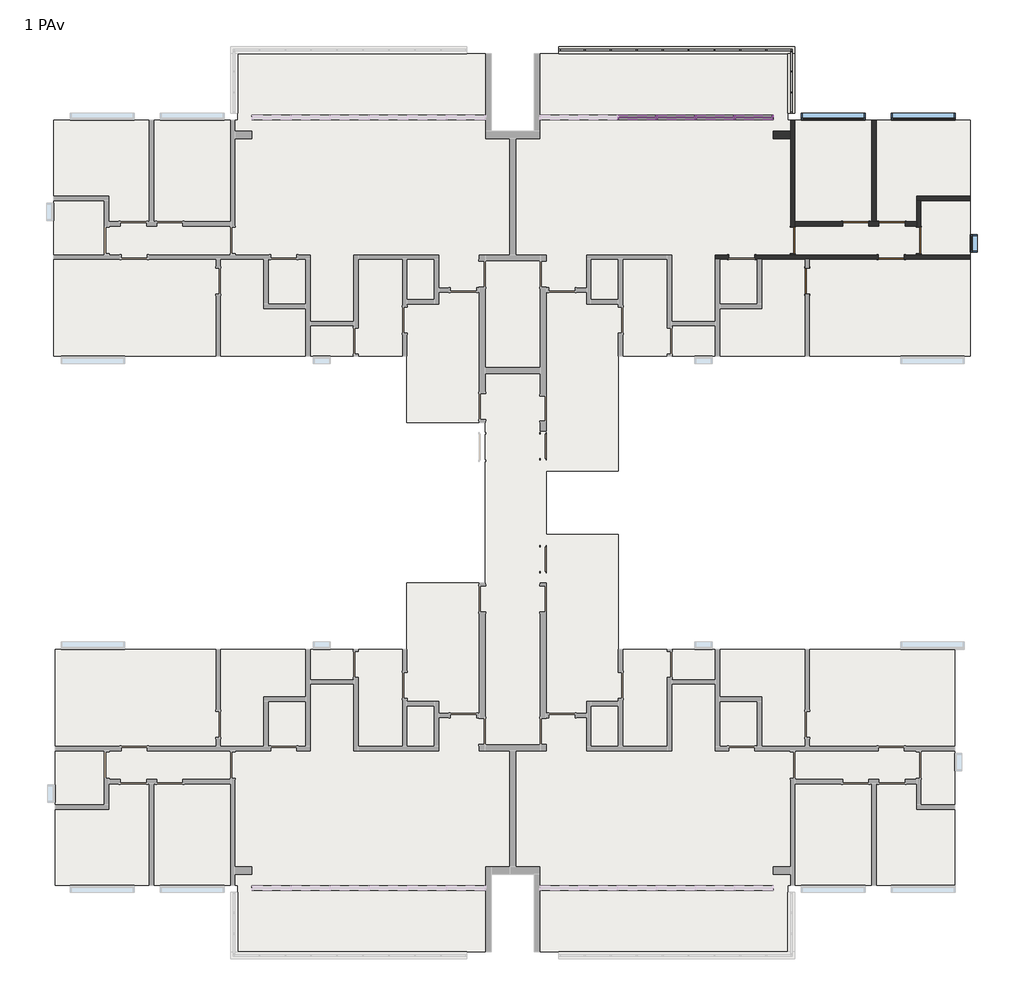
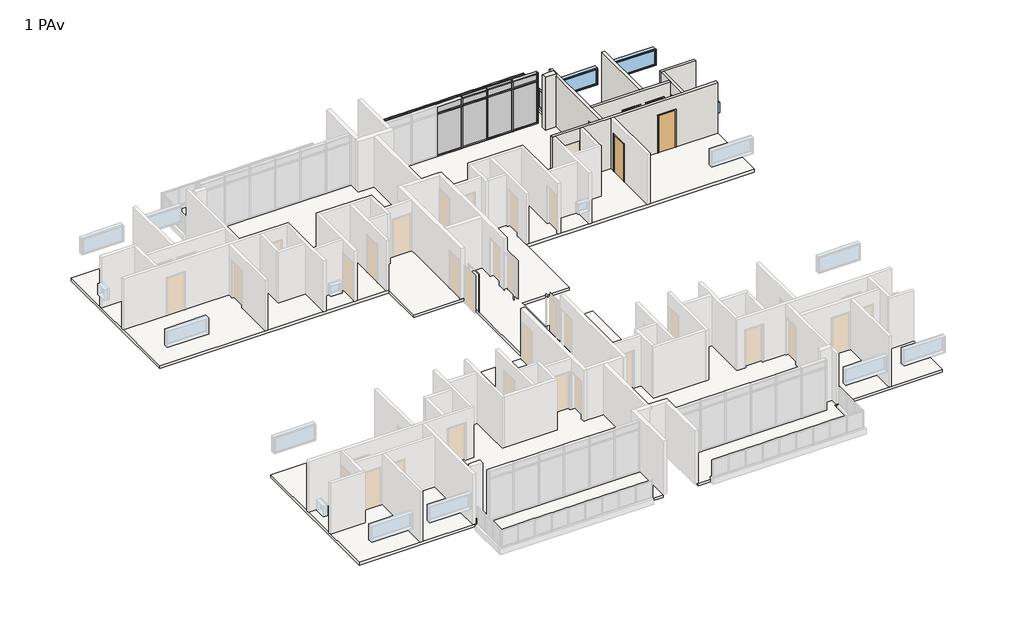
# One storey, part 6 of 6: 57 members, 20 plates, 9 walls, 6 doors, 3 windows, 1 slab.
"""IFC4 building model written with IfcOpenShell, lengths in millimetres."""

from ifc_helpers import new_model, si_unit, frame, origin, place, context, project, spatial, polyline, outline, extrude, faceted_brep, transform, mapped, element, save
from components import door_90_x_210_ee935524, door_90_x_210_565370b3, montante_retangular_50_mm_quadrado_84e40a56, montante_retangular_50_mm_quadrado_3d152aff, montante_retangular_50_mm_quadrado_a01005a4, montante_retangular_50_mm_quadrado_ddd80bd7, montante_retangular_50_mm_quadrado_4acded50, montante_retangular_50_mm_quadrado_237d7072, montante_retangular_50_x_150_mm_6217edde, montante_retangular_50_x_150_mm_a22249d7, montante_retangular_50_x_150_mm_6225e4e3, montante_retangular_50_x_150_mm_0a8c3443, montante_retangular_50_x_150_mm_567eccab, montante_retangular_50_x_150_mm_1ca2bba2, montante_retangular_50_x_150_mm_6abf4531, montante_retangular_50_x_150_mm_662c37b1, painel_do_sistema_0196877a, painel_do_sistema_2aa81470, painel_do_sistema_57ceaf50, painel_do_sistema_ab0ed719, painel_do_sistema_1ecb5f42, painel_do_sistema_49db1829, painel_do_sistema_5ea5287b, painel_do_sistema_7730abee, window_0610_x_0610_mm_b5667cc9, window_220_x_90_cea65aae

model = new_model("IFC4")

# Units and contexts
model_context = context("Model", 3, world=origin())
ifc_project = project(units=[si_unit("LENGTHUNIT", "METRE", prefix="MILLI")], contexts=[model_context])

# Site, building, storey
site = spatial("IfcSite", under=ifc_project)
building = spatial("IfcBuilding", under=site)
storey = spatial("IfcBuildingStorey", under=building, Name="1 PAv", Elevation=3000.0)

# Doors
placement = place(None, origin())
door_90_x_210_shape = door_90_x_210_ee935524(model_context)
element("IfcDoor", 1, ObjectType="M_Descarga simples : 90 x 210", at=placement, inside=storey, context=model_context, shape_type="MappedRepresentation", body=[
    mapped(door_90_x_210_shape, transform((9138.7734258, 8433.6614625, 3000.0), x_axis=(0.0, 1.0, 0.0), y_axis=(-1.0, 0.0, 0.0), z_axis=(0.0, 0.0, 1.0))),
])
element("IfcDoor", 2, ObjectType="M_Descarga simples : 90 x 210", at=placement, inside=storey, context=model_context, shape_type="MappedRepresentation", body=[
    mapped(door_90_x_210_shape, transform((8638.7734258, 9833.6614625, 3000.0), x_axis=(0.0, -1.0, 0.0), y_axis=(1.0, 0.0, 0.0), z_axis=(0.0, 0.0, 1.0))),
])
element("IfcDoor", 3, ObjectType="M_Descarga simples : 90 x 210", at=placement, inside=storey, context=model_context, shape_type="MappedRepresentation", body=[
    mapped(door_90_x_210_shape, transform((12988.7734258, 9833.6614625, 3000.0), x_axis=(0.0, -1.0, 0.0), y_axis=(1.0, 0.0, 0.0), z_axis=(0.0, 0.0, 1.0))),
])
element("IfcDoor", 4, ObjectType="M_Descarga simples : 90 x 210", at=placement, inside=storey, context=model_context, shape_type="MappedRepresentation", body=[
    mapped(door_90_x_210_shape, transform((10813.7734258, 10408.6614625, 3000.0), x_axis=(1.0, 0.0, 0.0), y_axis=(0.0, 1.0, 0.0), z_axis=(0.0, 0.0, 1.0))),
])
door_90_x_210_2_shape = door_90_x_210_565370b3(model_context)
element("IfcDoor", 5, ObjectType="M_Descarga simples : 90 x 210", at=placement, inside=storey, context=model_context, shape_type="MappedRepresentation", body=[
    mapped(door_90_x_210_2_shape, transform((12063.7734258, 10408.6614625, 3000.0), x_axis=(-1.0, 0.0, 0.0), y_axis=(0.0, -1.0, 0.0), z_axis=(0.0, 0.0, 1.0))),
])
element("IfcDoor", 6, ObjectType="M_Descarga simples : 90 x 210", at=placement, inside=storey, context=model_context, shape_type="MappedRepresentation", body=[
    mapped(door_90_x_210_2_shape, transform((12043.7734258, 9258.6614625, 3000.0), x_axis=(1.0, 0.0, 0.0), y_axis=(0.0, 1.0, 0.0), z_axis=(0.0, 0.0, 1.0))),
])

# Members
montante_retangular_50_mm_quadrado_shape = montante_retangular_50_mm_quadrado_84e40a56(model_context)
element("IfcMember", 7, ObjectType="Montante retangular : 50 mm Quadrado", at=placement, inside=storey, context=model_context, shape_type="MappedRepresentation", body=[
    mapped(montante_retangular_50_mm_quadrado_shape, transform((1453.7734258, 16403.6614625, 3150.0), x_axis=(1.0, 0.0, 0.0), y_axis=(0.0, -1.0, 0.0), z_axis=(0.0, 0.0, -1.0))),
])
element("IfcMember", 8, ObjectType="Montante retangular : 50 mm Quadrado", at=placement, inside=storey, context=model_context, shape_type="MappedRepresentation", body=[
    mapped(montante_retangular_50_mm_quadrado_shape, transform((2348.7734258, 16403.6614625, 3150.0), x_axis=(1.0, 0.0, 0.0), y_axis=(0.0, -1.0, 0.0), z_axis=(0.0, 0.0, -1.0))),
])
element("IfcMember", 9, ObjectType="Montante retangular : 50 mm Quadrado", at=placement, inside=storey, context=model_context, shape_type="MappedRepresentation", body=[
    mapped(montante_retangular_50_mm_quadrado_shape, transform((3243.7734258, 16403.6614625, 3150.0), x_axis=(1.0, 0.0, 0.0), y_axis=(0.0, -1.0, 0.0), z_axis=(0.0, 0.0, -1.0))),
])
element("IfcMember", 10, ObjectType="Montante retangular : 50 mm Quadrado", at=placement, inside=storey, context=model_context, shape_type="MappedRepresentation", body=[
    mapped(montante_retangular_50_mm_quadrado_shape, transform((4138.7734258, 16403.6614625, 3150.0), x_axis=(1.0, 0.0, 0.0), y_axis=(0.0, -1.0, 0.0), z_axis=(0.0, 0.0, -1.0))),
])
element("IfcMember", 11, ObjectType="Montante retangular : 50 mm Quadrado", at=placement, inside=storey, context=model_context, shape_type="MappedRepresentation", body=[
    mapped(montante_retangular_50_mm_quadrado_shape, transform((5033.7734258, 16403.6614625, 3150.0), x_axis=(1.0, 0.0, 0.0), y_axis=(0.0, -1.0, 0.0), z_axis=(0.0, 0.0, -1.0))),
])
element("IfcMember", 12, ObjectType="Montante retangular : 50 mm Quadrado", at=placement, inside=storey, context=model_context, shape_type="MappedRepresentation", body=[
    mapped(montante_retangular_50_mm_quadrado_shape, transform((5928.7734258, 16403.6614625, 3150.0), x_axis=(1.0, 0.0, 0.0), y_axis=(0.0, -1.0, 0.0), z_axis=(0.0, 0.0, -1.0))),
])
element("IfcMember", 13, ObjectType="Montante retangular : 50 mm Quadrado", at=placement, inside=storey, context=model_context, shape_type="MappedRepresentation", body=[
    mapped(montante_retangular_50_mm_quadrado_shape, transform((6823.7734258, 16403.6614625, 3150.0), x_axis=(1.0, 0.0, 0.0), y_axis=(0.0, -1.0, 0.0), z_axis=(0.0, 0.0, -1.0))),
])
element("IfcMember", 14, ObjectType="Montante retangular : 50 mm Quadrado", at=placement, inside=storey, context=model_context, shape_type="MappedRepresentation", body=[
    mapped(montante_retangular_50_mm_quadrado_shape, transform((7718.7734258, 16403.6614625, 3150.0), x_axis=(1.0, 0.0, 0.0), y_axis=(0.0, -1.0, 0.0), z_axis=(0.0, 0.0, -1.0))),
])
element("IfcMember", 15, ObjectType="Montante retangular : 50 mm Quadrado", at=placement, inside=storey, context=model_context, shape_type="MappedRepresentation", body=[
    mapped(montante_retangular_50_mm_quadrado_shape, transform((8588.7734258, 15663.6614625, 3150.0), x_axis=(0.0, -1.0, 0.0), y_axis=(-1.0, 0.0, 0.0), z_axis=(0.0, 0.0, -1.0))),
])
element("IfcMember", 16, ObjectType="Montante retangular : 50 mm Quadrado", at=placement, inside=storey, context=model_context, shape_type="MappedRepresentation", body=[
    mapped(montante_retangular_50_mm_quadrado_shape, transform((8588.7734258, 14948.6614625, 3150.0), x_axis=(0.0, -1.0, 0.0), y_axis=(-1.0, 0.0, 0.0), z_axis=(0.0, 0.0, -1.0))),
])
montante_retangular_50_mm_quadrado_2_shape = montante_retangular_50_mm_quadrado_3d152aff(model_context)
element("IfcMember", 17, ObjectType="Montante retangular : 50 mm Quadrado", at=placement, inside=storey, context=model_context, shape_type="MappedRepresentation", body=[
    mapped(montante_retangular_50_mm_quadrado_2_shape, transform((8613.7734258, 16403.6614625, 3150.0), x_axis=(1.0, 0.0, 0.0), y_axis=(0.0, -1.0, 0.0), z_axis=(0.0, 0.0, -1.0))),
])
element("IfcMember", 18, ObjectType="Montante retangular : 50 mm Quadrado", at=placement, inside=storey, context=model_context, shape_type="MappedRepresentation", body=[
    mapped(montante_retangular_50_mm_quadrado_2_shape, transform((8588.7734258, 14233.6614625, 3150.0), x_axis=(0.0, -1.0, 0.0), y_axis=(-1.0, 0.0, 0.0), z_axis=(0.0, 0.0, -1.0))),
])
element("IfcMember", 19, ObjectType="Montante retangular : 50 mm Quadrado", at=placement, inside=storey, context=model_context, shape_type="MappedRepresentation", body=[
    mapped(montante_retangular_50_mm_quadrado_2_shape, transform((558.7734258, 16403.6614625, 4150.0), x_axis=(-1.0, 0.0, 0.0), y_axis=(0.0, -1.0, 0.0), z_axis=(0.0, 0.0, 1.0))),
])
element("IfcMember", 20, ObjectType="Montante retangular : 50 mm Quadrado", at=placement, inside=storey, context=model_context, shape_type="MappedRepresentation", body=[
    mapped(montante_retangular_50_mm_quadrado_2_shape, transform((8588.7734258, 16378.6614625, 4150.0), x_axis=(0.0, 1.0, 0.0), y_axis=(-1.0, 0.0, 0.0), z_axis=(0.0, 0.0, 1.0))),
])
montante_retangular_50_mm_quadrado_3_shape = montante_retangular_50_mm_quadrado_a01005a4(model_context)
element("IfcMember", 21, ObjectType="Montante retangular : 50 mm Quadrado", at=placement, inside=storey, context=model_context, shape_type="MappedRepresentation", body=[
    mapped(montante_retangular_50_mm_quadrado_3_shape, transform((8588.7734258, 14283.6614625, 4150.0), x_axis=(0.0, 0.0, 1.0), y_axis=(-1.0, 0.0, 0.0), z_axis=(0.0, -1.0, 0.0))),
])
element("IfcMember", 22, ObjectType="Montante retangular : 50 mm Quadrado", at=placement, inside=storey, context=model_context, shape_type="MappedRepresentation", body=[
    mapped(montante_retangular_50_mm_quadrado_3_shape, transform((8588.7734258, 15688.6614625, 4150.0), x_axis=(0.0, 0.0, 1.0), y_axis=(-1.0, 0.0, 0.0), z_axis=(0.0, -1.0, 0.0))),
])
montante_retangular_50_mm_quadrado_4_shape = montante_retangular_50_mm_quadrado_ddd80bd7(model_context)
element("IfcMember", 23, ObjectType="Montante retangular : 50 mm Quadrado", at=placement, inside=storey, context=model_context, shape_type="MappedRepresentation", body=[
    mapped(montante_retangular_50_mm_quadrado_4_shape, transform((8588.7734258, 14973.6614625, 4150.0), x_axis=(0.0, 0.0, 1.0), y_axis=(-1.0, 0.0, 0.0), z_axis=(0.0, -1.0, 0.0))),
])
element("IfcMember", 24, ObjectType="Montante retangular : 50 mm Quadrado", at=placement, inside=storey, context=model_context, shape_type="MappedRepresentation", body=[
    mapped(montante_retangular_50_mm_quadrado_3_shape, transform((8588.7734258, 16328.6614625, 3150.0), x_axis=(0.0, 0.0, -1.0), y_axis=(-1.0, 0.0, 0.0), z_axis=(0.0, 1.0, 0.0))),
])
element("IfcMember", 25, ObjectType="Montante retangular : 50 mm Quadrado", at=placement, inside=storey, context=model_context, shape_type="MappedRepresentation", body=[
    mapped(montante_retangular_50_mm_quadrado_3_shape, transform((8588.7734258, 14923.6614625, 3150.0), x_axis=(0.0, 0.0, -1.0), y_axis=(-1.0, 0.0, 0.0), z_axis=(0.0, 1.0, 0.0))),
])
element("IfcMember", 26, ObjectType="Montante retangular : 50 mm Quadrado", at=placement, inside=storey, context=model_context, shape_type="MappedRepresentation", body=[
    mapped(montante_retangular_50_mm_quadrado_4_shape, transform((8588.7734258, 15638.6614625, 3150.0), x_axis=(0.0, 0.0, -1.0), y_axis=(-1.0, 0.0, 0.0), z_axis=(0.0, 1.0, 0.0))),
])
montante_retangular_50_mm_quadrado_5_shape = montante_retangular_50_mm_quadrado_4acded50(model_context)
element("IfcMember", 27, ObjectType="Montante retangular : 50 mm Quadrado", at=placement, inside=storey, context=model_context, shape_type="MappedRepresentation", body=[
    mapped(montante_retangular_50_mm_quadrado_5_shape, transform((8563.7734258, 16403.6614625, 4150.0), x_axis=(0.0, 0.0, 1.0), y_axis=(0.0, -1.0, 0.0), z_axis=(1.0, 0.0, 0.0))),
])
element("IfcMember", 28, ObjectType="Montante retangular : 50 mm Quadrado", at=placement, inside=storey, context=model_context, shape_type="MappedRepresentation", body=[
    mapped(montante_retangular_50_mm_quadrado_5_shape, transform((1428.7734258, 16403.6614625, 4150.0), x_axis=(0.0, 0.0, 1.0), y_axis=(0.0, -1.0, 0.0), z_axis=(1.0, 0.0, 0.0))),
])
montante_retangular_50_mm_quadrado_6_shape = montante_retangular_50_mm_quadrado_237d7072(model_context)
element("IfcMember", 29, ObjectType="Montante retangular : 50 mm Quadrado", at=placement, inside=storey, context=model_context, shape_type="MappedRepresentation", body=[
    mapped(montante_retangular_50_mm_quadrado_6_shape, transform((2323.7734258, 16403.6614625, 4150.0), x_axis=(0.0, 0.0, 1.0), y_axis=(0.0, -1.0, 0.0), z_axis=(1.0, 0.0, 0.0))),
])
element("IfcMember", 30, ObjectType="Montante retangular : 50 mm Quadrado", at=placement, inside=storey, context=model_context, shape_type="MappedRepresentation", body=[
    mapped(montante_retangular_50_mm_quadrado_6_shape, transform((3218.7734258, 16403.6614625, 4150.0), x_axis=(0.0, 0.0, 1.0), y_axis=(0.0, -1.0, 0.0), z_axis=(1.0, 0.0, 0.0))),
])
element("IfcMember", 31, ObjectType="Montante retangular : 50 mm Quadrado", at=placement, inside=storey, context=model_context, shape_type="MappedRepresentation", body=[
    mapped(montante_retangular_50_mm_quadrado_6_shape, transform((4113.7734258, 16403.6614625, 4150.0), x_axis=(0.0, 0.0, 1.0), y_axis=(0.0, -1.0, 0.0), z_axis=(1.0, 0.0, 0.0))),
])
element("IfcMember", 32, ObjectType="Montante retangular : 50 mm Quadrado", at=placement, inside=storey, context=model_context, shape_type="MappedRepresentation", body=[
    mapped(montante_retangular_50_mm_quadrado_6_shape, transform((5008.7734258, 16403.6614625, 4150.0), x_axis=(0.0, 0.0, 1.0), y_axis=(0.0, -1.0, 0.0), z_axis=(1.0, 0.0, 0.0))),
])
element("IfcMember", 33, ObjectType="Montante retangular : 50 mm Quadrado", at=placement, inside=storey, context=model_context, shape_type="MappedRepresentation", body=[
    mapped(montante_retangular_50_mm_quadrado_6_shape, transform((5903.7734258, 16403.6614625, 4150.0), x_axis=(0.0, 0.0, 1.0), y_axis=(0.0, -1.0, 0.0), z_axis=(1.0, 0.0, 0.0))),
])
element("IfcMember", 34, ObjectType="Montante retangular : 50 mm Quadrado", at=placement, inside=storey, context=model_context, shape_type="MappedRepresentation", body=[
    mapped(montante_retangular_50_mm_quadrado_6_shape, transform((6798.7734258, 16403.6614625, 4150.0), x_axis=(0.0, 0.0, 1.0), y_axis=(0.0, -1.0, 0.0), z_axis=(1.0, 0.0, 0.0))),
])
element("IfcMember", 35, ObjectType="Montante retangular : 50 mm Quadrado", at=placement, inside=storey, context=model_context, shape_type="MappedRepresentation", body=[
    mapped(montante_retangular_50_mm_quadrado_6_shape, transform((7693.7734258, 16403.6614625, 4150.0), x_axis=(0.0, 0.0, 1.0), y_axis=(0.0, -1.0, 0.0), z_axis=(1.0, 0.0, 0.0))),
])
element("IfcMember", 36, ObjectType="Montante retangular : 50 mm Quadrado", at=placement, inside=storey, context=model_context, shape_type="MappedRepresentation", body=[
    mapped(montante_retangular_50_mm_quadrado_5_shape, transform((608.7734258, 16403.6614625, 3150.0), x_axis=(0.0, 0.0, -1.0), y_axis=(0.0, -1.0, 0.0), z_axis=(-1.0, 0.0, 0.0))),
])
element("IfcMember", 37, ObjectType="Montante retangular : 50 mm Quadrado", at=placement, inside=storey, context=model_context, shape_type="MappedRepresentation", body=[
    mapped(montante_retangular_50_mm_quadrado_5_shape, transform((7743.7734258, 16403.6614625, 3150.0), x_axis=(0.0, 0.0, -1.0), y_axis=(0.0, -1.0, 0.0), z_axis=(-1.0, 0.0, 0.0))),
])
element("IfcMember", 38, ObjectType="Montante retangular : 50 mm Quadrado", at=placement, inside=storey, context=model_context, shape_type="MappedRepresentation", body=[
    mapped(montante_retangular_50_mm_quadrado_6_shape, transform((1478.7734258, 16403.6614625, 3150.0), x_axis=(0.0, 0.0, -1.0), y_axis=(0.0, -1.0, 0.0), z_axis=(-1.0, 0.0, 0.0))),
])
element("IfcMember", 39, ObjectType="Montante retangular : 50 mm Quadrado", at=placement, inside=storey, context=model_context, shape_type="MappedRepresentation", body=[
    mapped(montante_retangular_50_mm_quadrado_6_shape, transform((2373.7734258, 16403.6614625, 3150.0), x_axis=(0.0, 0.0, -1.0), y_axis=(0.0, -1.0, 0.0), z_axis=(-1.0, 0.0, 0.0))),
])
element("IfcMember", 40, ObjectType="Montante retangular : 50 mm Quadrado", at=placement, inside=storey, context=model_context, shape_type="MappedRepresentation", body=[
    mapped(montante_retangular_50_mm_quadrado_6_shape, transform((3268.7734258, 16403.6614625, 3150.0), x_axis=(0.0, 0.0, -1.0), y_axis=(0.0, -1.0, 0.0), z_axis=(-1.0, 0.0, 0.0))),
])
element("IfcMember", 41, ObjectType="Montante retangular : 50 mm Quadrado", at=placement, inside=storey, context=model_context, shape_type="MappedRepresentation", body=[
    mapped(montante_retangular_50_mm_quadrado_6_shape, transform((4163.7734258, 16403.6614625, 3150.0), x_axis=(0.0, 0.0, -1.0), y_axis=(0.0, -1.0, 0.0), z_axis=(-1.0, 0.0, 0.0))),
])
element("IfcMember", 42, ObjectType="Montante retangular : 50 mm Quadrado", at=placement, inside=storey, context=model_context, shape_type="MappedRepresentation", body=[
    mapped(montante_retangular_50_mm_quadrado_6_shape, transform((5058.7734258, 16403.6614625, 3150.0), x_axis=(0.0, 0.0, -1.0), y_axis=(0.0, -1.0, 0.0), z_axis=(-1.0, 0.0, 0.0))),
])
element("IfcMember", 43, ObjectType="Montante retangular : 50 mm Quadrado", at=placement, inside=storey, context=model_context, shape_type="MappedRepresentation", body=[
    mapped(montante_retangular_50_mm_quadrado_6_shape, transform((5953.7734258, 16403.6614625, 3150.0), x_axis=(0.0, 0.0, -1.0), y_axis=(0.0, -1.0, 0.0), z_axis=(-1.0, 0.0, 0.0))),
])
element("IfcMember", 44, ObjectType="Montante retangular : 50 mm Quadrado", at=placement, inside=storey, context=model_context, shape_type="MappedRepresentation", body=[
    mapped(montante_retangular_50_mm_quadrado_6_shape, transform((6848.7734258, 16403.6614625, 3150.0), x_axis=(0.0, 0.0, -1.0), y_axis=(0.0, -1.0, 0.0), z_axis=(-1.0, 0.0, 0.0))),
])
montante_retangular_50_x_150_mm_shape = montante_retangular_50_x_150_mm_6217edde(model_context)
element("IfcMember", 45, ObjectType="Montante retangular : 50 x 150 mm", at=placement, inside=storey, context=model_context, shape_type="MappedRepresentation", body=[
    mapped(montante_retangular_50_x_150_mm_shape, transform((6654.6067592, 14083.6614625, 5850.0), x_axis=(0.0, 0.0, 1.0), y_axis=(0.0, 1.0, 0.0), z_axis=(-1.0, 0.0, 0.0))),
])
montante_retangular_50_x_150_mm_2_shape = montante_retangular_50_x_150_mm_a22249d7(model_context)
element("IfcMember", 46, ObjectType="Montante retangular : 50 x 150 mm", at=placement, inside=storey, context=model_context, shape_type="MappedRepresentation", body=[
    mapped(montante_retangular_50_x_150_mm_2_shape, transform((5310.4400925, 14083.6614625, 5850.0), x_axis=(0.0, 0.0, 1.0), y_axis=(0.0, 1.0, 0.0), z_axis=(-1.0, 0.0, 0.0))),
])
element("IfcMember", 47, ObjectType="Montante retangular : 50 x 150 mm", at=placement, inside=storey, context=model_context, shape_type="MappedRepresentation", body=[
    mapped(montante_retangular_50_x_150_mm_2_shape, transform((3966.2734258, 14083.6614625, 5850.0), x_axis=(0.0, 0.0, 1.0), y_axis=(0.0, 1.0, 0.0), z_axis=(-1.0, 0.0, 0.0))),
])
element("IfcMember", 48, ObjectType="Montante retangular : 50 x 150 mm", at=placement, inside=storey, context=model_context, shape_type="MappedRepresentation", body=[
    mapped(montante_retangular_50_x_150_mm_shape, transform((7923.7734258, 14083.6614625, 3000.0), x_axis=(0.0, 0.0, -1.0), y_axis=(0.0, 1.0, 0.0), z_axis=(1.0, 0.0, 0.0))),
])
element("IfcMember", 49, ObjectType="Montante retangular : 50 x 150 mm", at=placement, inside=storey, context=model_context, shape_type="MappedRepresentation", body=[
    mapped(montante_retangular_50_x_150_mm_2_shape, transform((6604.6067592, 14083.6614625, 3000.0), x_axis=(0.0, 0.0, -1.0), y_axis=(0.0, 1.0, 0.0), z_axis=(1.0, 0.0, 0.0))),
])
element("IfcMember", 50, ObjectType="Montante retangular : 50 x 150 mm", at=placement, inside=storey, context=model_context, shape_type="MappedRepresentation", body=[
    mapped(montante_retangular_50_x_150_mm_2_shape, transform((5260.4400925, 14083.6614625, 3000.0), x_axis=(0.0, 0.0, -1.0), y_axis=(0.0, 1.0, 0.0), z_axis=(1.0, 0.0, 0.0))),
])
element("IfcMember", 51, ObjectType="Montante retangular : 50 x 150 mm", at=placement, inside=storey, context=model_context, shape_type="MappedRepresentation", body=[
    mapped(montante_retangular_50_x_150_mm_2_shape, transform((3916.2734258, 14083.6614625, 3000.0), x_axis=(0.0, 0.0, -1.0), y_axis=(0.0, 1.0, 0.0), z_axis=(1.0, 0.0, 0.0))),
])
montante_retangular_50_x_150_mm_3_shape = montante_retangular_50_x_150_mm_6225e4e3(model_context)
element("IfcMember", 52, ObjectType="Montante retangular : 50 x 150 mm", at=placement, inside=storey, context=model_context, shape_type="MappedRepresentation", body=[
    mapped(montante_retangular_50_x_150_mm_3_shape, transform((6629.6067592, 14083.6614625, 3000.0), x_axis=(-1.0, 0.0, 0.0), y_axis=(0.0, 1.0, 0.0), z_axis=(0.0, 0.0, -1.0))),
])
element("IfcMember", 53, ObjectType="Montante retangular : 50 x 150 mm", at=placement, inside=storey, context=model_context, shape_type="MappedRepresentation", body=[
    mapped(montante_retangular_50_x_150_mm_3_shape, transform((5285.4400925, 14083.6614625, 3000.0), x_axis=(-1.0, 0.0, 0.0), y_axis=(0.0, 1.0, 0.0), z_axis=(0.0, 0.0, -1.0))),
])
element("IfcMember", 54, ObjectType="Montante retangular : 50 x 150 mm", at=placement, inside=storey, context=model_context, shape_type="MappedRepresentation", body=[
    mapped(montante_retangular_50_x_150_mm_3_shape, transform((3941.2734258, 14083.6614625, 3000.0), x_axis=(-1.0, 0.0, 0.0), y_axis=(0.0, 1.0, 0.0), z_axis=(0.0, 0.0, -1.0))),
])
montante_retangular_50_x_150_mm_4_shape = montante_retangular_50_x_150_mm_0a8c3443(model_context)
element("IfcMember", 55, ObjectType="Montante retangular : 50 x 150 mm", at=placement, inside=storey, context=model_context, shape_type="MappedRepresentation", body=[
    mapped(montante_retangular_50_x_150_mm_4_shape, transform((7973.7734258, 14083.6614625, 5850.0), x_axis=(1.0, 0.0, 0.0), y_axis=(0.0, 1.0, 0.0), z_axis=(0.0, 0.0, 1.0))),
])
montante_retangular_50_x_150_mm_5_shape = montante_retangular_50_x_150_mm_567eccab(model_context)
element("IfcMember", 56, ObjectType="Montante retangular : 50 x 150 mm", at=placement, inside=storey, context=model_context, shape_type="MappedRepresentation", body=[
    mapped(montante_retangular_50_x_150_mm_5_shape, transform((6629.6067592, 14083.6614625, 5400.0), x_axis=(-1.0, 0.0, 0.0), y_axis=(0.0, 1.0, 0.0), z_axis=(0.0, 0.0, -1.0))),
])
element("IfcMember", 57, ObjectType="Montante retangular : 50 x 150 mm", at=placement, inside=storey, context=model_context, shape_type="MappedRepresentation", body=[
    mapped(montante_retangular_50_x_150_mm_5_shape, transform((5285.4400925, 14083.6614625, 5400.0), x_axis=(-1.0, 0.0, 0.0), y_axis=(0.0, 1.0, 0.0), z_axis=(0.0, 0.0, -1.0))),
])
element("IfcMember", 58, ObjectType="Montante retangular : 50 x 150 mm", at=placement, inside=storey, context=model_context, shape_type="MappedRepresentation", body=[
    mapped(montante_retangular_50_x_150_mm_5_shape, transform((3941.2734258, 14083.6614625, 5400.0), x_axis=(-1.0, 0.0, 0.0), y_axis=(0.0, 1.0, 0.0), z_axis=(0.0, 0.0, -1.0))),
])
montante_retangular_50_x_150_mm_6_shape = montante_retangular_50_x_150_mm_1ca2bba2(model_context)
element("IfcMember", 59, ObjectType="Montante retangular : 50 x 150 mm", at=placement, inside=storey, context=model_context, shape_type="MappedRepresentation", body=[
    mapped(montante_retangular_50_x_150_mm_6_shape, transform((6654.6067592, 14083.6614625, 5400.0), x_axis=(0.0, 0.0, 1.0), y_axis=(0.0, 1.0, 0.0), z_axis=(-1.0, 0.0, 0.0))),
])
montante_retangular_50_x_150_mm_7_shape = montante_retangular_50_x_150_mm_6abf4531(model_context)
element("IfcMember", 60, ObjectType="Montante retangular : 50 x 150 mm", at=placement, inside=storey, context=model_context, shape_type="MappedRepresentation", body=[
    mapped(montante_retangular_50_x_150_mm_7_shape, transform((5310.4400925, 14083.6614625, 5400.0), x_axis=(0.0, 0.0, 1.0), y_axis=(0.0, 1.0, 0.0), z_axis=(-1.0, 0.0, 0.0))),
])
element("IfcMember", 61, ObjectType="Montante retangular : 50 x 150 mm", at=placement, inside=storey, context=model_context, shape_type="MappedRepresentation", body=[
    mapped(montante_retangular_50_x_150_mm_7_shape, transform((3966.2734258, 14083.6614625, 5400.0), x_axis=(0.0, 0.0, 1.0), y_axis=(0.0, 1.0, 0.0), z_axis=(-1.0, 0.0, 0.0))),
])
element("IfcMember", 62, ObjectType="Montante retangular : 50 x 150 mm", at=placement, inside=storey, context=model_context, shape_type="MappedRepresentation", body=[
    mapped(montante_retangular_50_x_150_mm_7_shape, transform((2622.1067592, 14083.6614625, 5400.0), x_axis=(0.0, 0.0, 1.0), y_axis=(0.0, 1.0, 0.0), z_axis=(-1.0, 0.0, 0.0))),
])
montante_retangular_50_x_150_mm_8_shape = montante_retangular_50_x_150_mm_662c37b1(model_context)
element("IfcMember", 63, ObjectType="Montante retangular : 50 x 150 mm", at=placement, inside=storey, context=model_context, shape_type="MappedRepresentation", body=[
    mapped(montante_retangular_50_x_150_mm_8_shape, transform((7973.7734258, 14083.6614625, 5400.0), x_axis=(1.0, 0.0, 0.0), y_axis=(0.0, 1.0, 0.0), z_axis=(0.0, 0.0, 1.0))),
])

# Plates
painel_do_sistema_shape = painel_do_sistema_0196877a(model_context)
element("IfcPlate", 64, ObjectType="Painel do sistema : Envidraçado", at=placement, inside=storey, context=model_context, shape_type="MappedRepresentation", body=[
    mapped(painel_do_sistema_shape, transform((8588.7734258, 16008.6614625, 3200.0), x_axis=(0.0, -1.0, 0.0), y_axis=(1.0, 0.0, 0.0), z_axis=(0.0, 0.0, 1.0))),
])
element("IfcPlate", 65, ObjectType="Painel do sistema : Envidraçado", at=placement, inside=storey, context=model_context, shape_type="MappedRepresentation", body=[
    mapped(painel_do_sistema_shape, transform((8588.7734258, 14603.6614625, 3200.0), x_axis=(0.0, -1.0, 0.0), y_axis=(1.0, 0.0, 0.0), z_axis=(0.0, 0.0, 1.0))),
])
painel_do_sistema_2_shape = painel_do_sistema_2aa81470(model_context)
element("IfcPlate", 66, ObjectType="Painel do sistema : Envidraçado", at=placement, inside=storey, context=model_context, shape_type="MappedRepresentation", body=[
    mapped(painel_do_sistema_2_shape, transform((8588.7734258, 15306.1614625, 3200.0), x_axis=(0.0, -1.0, 0.0), y_axis=(1.0, 0.0, 0.0), z_axis=(0.0, 0.0, 1.0))),
])
painel_do_sistema_3_shape = painel_do_sistema_57ceaf50(model_context)
element("IfcPlate", 67, ObjectType="Painel do sistema : Envidraçado", at=placement, inside=storey, context=model_context, shape_type="MappedRepresentation", body=[
    mapped(painel_do_sistema_3_shape, transform((1018.7734258, 16403.6614625, 3200.0), x_axis=(1.0, 0.0, 0.0), y_axis=(0.0, 1.0, 0.0), z_axis=(0.0, 0.0, 1.0))),
])
element("IfcPlate", 68, ObjectType="Painel do sistema : Envidraçado", at=placement, inside=storey, context=model_context, shape_type="MappedRepresentation", body=[
    mapped(painel_do_sistema_3_shape, transform((8153.7734258, 16403.6614625, 3200.0), x_axis=(1.0, 0.0, 0.0), y_axis=(0.0, 1.0, 0.0), z_axis=(0.0, 0.0, 1.0))),
])
painel_do_sistema_4_shape = painel_do_sistema_ab0ed719(model_context)
element("IfcPlate", 69, ObjectType="Painel do sistema : Envidraçado", at=placement, inside=storey, context=model_context, shape_type="MappedRepresentation", body=[
    mapped(painel_do_sistema_4_shape, transform((1901.2734258, 16403.6614625, 3200.0), x_axis=(1.0, 0.0, 0.0), y_axis=(0.0, 1.0, 0.0), z_axis=(0.0, 0.0, 1.0))),
])
element("IfcPlate", 70, ObjectType="Painel do sistema : Envidraçado", at=placement, inside=storey, context=model_context, shape_type="MappedRepresentation", body=[
    mapped(painel_do_sistema_4_shape, transform((2796.2734258, 16403.6614625, 3200.0), x_axis=(1.0, 0.0, 0.0), y_axis=(0.0, 1.0, 0.0), z_axis=(0.0, 0.0, 1.0))),
])
element("IfcPlate", 71, ObjectType="Painel do sistema : Envidraçado", at=placement, inside=storey, context=model_context, shape_type="MappedRepresentation", body=[
    mapped(painel_do_sistema_4_shape, transform((3691.2734258, 16403.6614625, 3200.0), x_axis=(1.0, 0.0, 0.0), y_axis=(0.0, 1.0, 0.0), z_axis=(0.0, 0.0, 1.0))),
])
element("IfcPlate", 72, ObjectType="Painel do sistema : Envidraçado", at=placement, inside=storey, context=model_context, shape_type="MappedRepresentation", body=[
    mapped(painel_do_sistema_4_shape, transform((4586.2734258, 16403.6614625, 3200.0), x_axis=(1.0, 0.0, 0.0), y_axis=(0.0, 1.0, 0.0), z_axis=(0.0, 0.0, 1.0))),
])
element("IfcPlate", 73, ObjectType="Painel do sistema : Envidraçado", at=placement, inside=storey, context=model_context, shape_type="MappedRepresentation", body=[
    mapped(painel_do_sistema_4_shape, transform((5481.2734258, 16403.6614625, 3200.0), x_axis=(1.0, 0.0, 0.0), y_axis=(0.0, 1.0, 0.0), z_axis=(0.0, 0.0, 1.0))),
])
element("IfcPlate", 74, ObjectType="Painel do sistema : Envidraçado", at=placement, inside=storey, context=model_context, shape_type="MappedRepresentation", body=[
    mapped(painel_do_sistema_4_shape, transform((6376.2734258, 16403.6614625, 3200.0), x_axis=(1.0, 0.0, 0.0), y_axis=(0.0, 1.0, 0.0), z_axis=(0.0, 0.0, 1.0))),
])
element("IfcPlate", 75, ObjectType="Painel do sistema : Envidraçado", at=placement, inside=storey, context=model_context, shape_type="MappedRepresentation", body=[
    mapped(painel_do_sistema_4_shape, transform((7271.2734258, 16403.6614625, 3200.0), x_axis=(1.0, 0.0, 0.0), y_axis=(0.0, 1.0, 0.0), z_axis=(0.0, 0.0, 1.0))),
])
painel_do_sistema_5_shape = painel_do_sistema_1ecb5f42(model_context)
element("IfcPlate", 76, ObjectType="Painel do sistema : Envidraçado", at=placement, inside=storey, context=model_context, shape_type="MappedRepresentation", body=[
    mapped(painel_do_sistema_5_shape, transform((7289.1900925, 14083.6614625, 3050.0), x_axis=(-1.0, 0.0, 0.0), y_axis=(0.0, -1.0, 0.0), z_axis=(0.0, 0.0, 1.0))),
])
painel_do_sistema_6_shape = painel_do_sistema_49db1829(model_context)
element("IfcPlate", 77, ObjectType="Painel do sistema : Envidraçado", at=placement, inside=storey, context=model_context, shape_type="MappedRepresentation", body=[
    mapped(painel_do_sistema_6_shape, transform((5957.5234258, 14083.6614625, 3050.0), x_axis=(-1.0, 0.0, 0.0), y_axis=(0.0, -1.0, 0.0), z_axis=(0.0, 0.0, 1.0))),
])
element("IfcPlate", 78, ObjectType="Painel do sistema : Envidraçado", at=placement, inside=storey, context=model_context, shape_type="MappedRepresentation", body=[
    mapped(painel_do_sistema_6_shape, transform((4613.3567592, 14083.6614625, 3050.0), x_axis=(-1.0, 0.0, 0.0), y_axis=(0.0, -1.0, 0.0), z_axis=(0.0, 0.0, 1.0))),
])
element("IfcPlate", 79, ObjectType="Painel do sistema : Envidraçado", at=placement, inside=storey, context=model_context, shape_type="MappedRepresentation", body=[
    mapped(painel_do_sistema_6_shape, transform((3269.1900925, 14083.6614625, 3050.0), x_axis=(-1.0, 0.0, 0.0), y_axis=(0.0, -1.0, 0.0), z_axis=(0.0, 0.0, 1.0))),
])
painel_do_sistema_7_shape = painel_do_sistema_5ea5287b(model_context)
element("IfcPlate", 80, ObjectType="Painel do sistema : Envidraçado", at=placement, inside=storey, context=model_context, shape_type="MappedRepresentation", body=[
    mapped(painel_do_sistema_7_shape, transform((7289.1900925, 14083.6614625, 5425.0), x_axis=(-1.0, 0.0, 0.0), y_axis=(0.0, -1.0, 0.0), z_axis=(0.0, 0.0, 1.0))),
])
painel_do_sistema_8_shape = painel_do_sistema_7730abee(model_context)
element("IfcPlate", 81, ObjectType="Painel do sistema : Envidraçado", at=placement, inside=storey, context=model_context, shape_type="MappedRepresentation", body=[
    mapped(painel_do_sistema_8_shape, transform((5957.5234258, 14083.6614625, 5425.0), x_axis=(-1.0, 0.0, 0.0), y_axis=(0.0, -1.0, 0.0), z_axis=(0.0, 0.0, 1.0))),
])
element("IfcPlate", 82, ObjectType="Painel do sistema : Envidraçado", at=placement, inside=storey, context=model_context, shape_type="MappedRepresentation", body=[
    mapped(painel_do_sistema_8_shape, transform((4613.3567592, 14083.6614625, 5425.0), x_axis=(-1.0, 0.0, 0.0), y_axis=(0.0, -1.0, 0.0), z_axis=(0.0, 0.0, 1.0))),
])
element("IfcPlate", 83, ObjectType="Painel do sistema : Envidraçado", at=placement, inside=storey, context=model_context, shape_type="MappedRepresentation", body=[
    mapped(painel_do_sistema_8_shape, transform((3269.1900925, 14083.6614625, 5425.0), x_axis=(-1.0, 0.0, 0.0), y_axis=(0.0, -1.0, 0.0), z_axis=(0.0, 0.0, 1.0))),
])

# Slab
element("IfcSlab", 84, ObjectType="Genérico 150 mm", at=placement, inside=storey, context=model_context, shape_type="Brep", body=[
    faceted_brep([(-4676.2265742, -4286.3385375, 2850.0), (-4676.2265742, -1996.3385375, 2850.0), (-1976.2265742, -1996.3385375, 2850.0), (-1976.2265742, 3543.6614625, 2850.0), (-4676.2265742, 3543.6614625, 2850.0), (-4676.2265742, 5833.6614625, 2850.0), (-16866.2265742, 5833.6614625, 2850.0), (-16866.2265742, 13983.6614625, 2850.0), (-10516.2265742, 13983.6614625, 2850.0), (-10516.2265742, 14233.6614625, 2850.0), (-10516.2265742, 16278.6614625, 2850.0), (-2611.2265742, 16278.6614625, 2850.0), (-1961.2265742, 16278.6614625, 2850.0), (-1961.2265742, 13353.6614625, 2850.0), (-91.2265742, 13353.6614625, 2850.0), (-91.2265742, 16278.6614625, 2850.0), (558.7734258, 16278.6614625, 2850.0), (8463.7734258, 16278.6614625, 2850.0), (8463.7734258, 14233.6614625, 2850.0), (8463.7734258, 13983.6614625, 2850.0), (14763.7734258, 13983.6614625, 2850.0), (14763.7734258, 5833.6614625, 2850.0), (2623.7734258, 5833.6614625, 2850.0), (2623.7734258, 1863.6614625, 2850.0), (123.7734258, 1863.6614625, 2850.0), (123.7734258, -316.3385375, 2850.0), (2623.7734258, -316.3385375, 2850.0), (2623.7734258, -4286.3385375, 2850.0), (14223.269929, -4286.3385375, 2850.0), (14223.269929, -12436.3385375, 2850.0), (8463.7734258, -12436.3385375, 2850.0), (8463.7734258, -12686.3385375, 2850.0), (8463.7734258, -14731.3385375, 2850.0), (558.7734258, -14731.3385375, 2850.0), (-91.2265742, -14731.3385375, 2850.0), (-91.2265742, -11806.3385375, 2850.0), (-1961.2265742, -11806.3385375, 2850.0), (-1961.2265742, -14731.3385375, 2850.0), (-2611.2265742, -14731.3385375, 2850.0), (-10516.2265742, -14731.3385375, 2850.0), (-10516.2265742, -12686.3385375, 2850.0), (-10516.2265742, -12436.3385375, 2850.0), (-16816.2265742, -12436.3385375, 2850.0), (-16816.2265742, -4286.3385375, 2850.0), (-4676.2265742, -4286.3385375, 3000.0), (-16816.2265742, -4286.3385375, 3000.0), (-16816.2265742, -12436.3385375, 3000.0), (-10516.2265742, -12436.3385375, 3000.0), (-10516.2265742, -12686.3385375, 3000.0), (-10516.2265742, -14731.3385375, 3000.0), (-1961.2265742, -14731.3385375, 3000.0), (-1961.2265742, -11806.3385375, 3000.0), (-91.2265742, -11806.3385375, 3000.0), (-91.2265742, -14731.3385375, 3000.0), (8463.7734258, -14731.3385375, 3000.0), (8463.7734258, -12686.3385375, 3000.0), (8463.7734258, -12436.3385375, 3000.0), (14223.269929, -12436.3385375, 3000.0), (14223.269929, -4286.3385375, 3000.0), (2623.7734258, -4286.3385375, 3000.0), (2623.7734258, -316.3385375, 3000.0), (123.7734258, -316.3385375, 3000.0), (123.7734258, 1863.6614625, 3000.0), (2623.7734258, 1863.6614625, 3000.0), (2623.7734258, 5833.6614625, 3000.0), (14763.7734258, 5833.6614625, 3000.0), (14763.7734258, 13983.6614625, 3000.0), (8463.7734258, 13983.6614625, 3000.0), (8463.7734258, 14233.6614625, 3000.0), (8463.7734258, 16278.6614625, 3000.0), (-91.2265742, 16278.6614625, 3000.0), (-91.2265742, 13353.6614625, 3000.0), (-1961.2265742, 13353.6614625, 3000.0), (-1961.2265742, 16278.6614625, 3000.0), (-10516.2265742, 16278.6614625, 3000.0), (-10516.2265742, 14233.6614625, 3000.0), (-10516.2265742, 13983.6614625, 3000.0), (-16866.2265742, 13983.6614625, 3000.0), (-16866.2265742, 5833.6614625, 3000.0), (-4676.2265742, 5833.6614625, 3000.0), (-4676.2265742, 3543.6614625, 3000.0), (-1976.2265742, 3543.6614625, 3000.0), (-1976.2265742, 3143.6614625, 3000.0), (-1976.2265742, 2243.6614625, 3000.0), (-1976.2265742, -1996.3385375, 3000.0), (-4676.2265742, -1996.3385375, 3000.0)], [[[0, 1, 2, 3, 4, 5, 6, 7, 8, 9, 10, 11, 12, 13, 14, 15, 16, 17, 18, 19, 20, 21, 22, 23, 24, 25, 26, 27, 28, 29, 30, 31, 32, 33, 34, 35, 36, 37, 38, 39, 40, 41, 42, 43]], [[44, 45, 46, 47, 48, 49, 50, 51, 52, 53, 54, 55, 56, 57, 58, 59, 60, 61, 62, 63, 64, 65, 66, 67, 68, 69, 70, 71, 72, 73, 74, 75, 76, 77, 78, 79, 80, 81, 82, 83, 84, 85]], [[1, 0, 44, 85]], [[2, 1, 85, 84]], [[3, 2, 84, 83, 82, 81]], [[4, 3, 81, 80]], [[5, 4, 80, 79]], [[6, 5, 79, 78]], [[7, 6, 78, 77]], [[8, 7, 77, 76]], [[10, 9, 8, 76, 75, 74]], [[12, 11, 10, 74, 73]], [[13, 12, 73, 72]], [[14, 13, 72, 71]], [[15, 14, 71, 70]], [[17, 16, 15, 70, 69]], [[19, 18, 17, 69, 68, 67]], [[20, 19, 67, 66]], [[21, 20, 66, 65]], [[22, 21, 65, 64]], [[23, 22, 64, 63]], [[27, 26, 60, 59]], [[28, 27, 59, 58]], [[29, 28, 58, 57]], [[30, 29, 57, 56]], [[32, 31, 30, 56, 55, 54]], [[34, 33, 32, 54, 53]], [[35, 34, 53, 52]], [[36, 35, 52, 51]], [[37, 36, 51, 50]], [[39, 38, 37, 50, 49]], [[41, 40, 39, 49, 48, 47]], [[42, 41, 47, 46]], [[43, 42, 46, 45]], [[0, 43, 45, 44]], [[24, 23, 63, 62]], [[25, 24, 62, 61]], [[26, 25, 61, 60]]]),
])

# Walls
element("IfcWall", 85, ObjectType="Exeterna 25", at=placement, inside=storey, context=model_context, shape_type="Brep", body=[
    faceted_brep([(558.7734258, 16278.6614625, 2850.0), (8463.7734258, 16278.6614625, 2850.0), (8713.7734258, 16278.6614625, 2850.0), (8713.7734258, 16278.6614625, 3150.0), (8463.7734258, 16278.6614625, 3150.0), (558.7734258, 16278.6614625, 3150.0), (558.7734258, 16528.6614625, 2850.0), (558.7734258, 16528.6614625, 3150.0), (8713.7734258, 16528.6614625, 3150.0), (8713.7734258, 16528.6614625, 2850.0)], [[[0, 1, 2, 3, 4, 5]], [[6, 7, 8, 9]], [[2, 1, 0, 6, 9]], [[5, 4, 3, 8, 7]], [[0, 5, 7, 6]], [[3, 2, 9, 8]]]),
])
element("IfcWall", 86, ObjectType="Exeterna 25", at=placement, inside=storey, context=model_context, shape_type="Brep", body=[
    faceted_brep([(8463.7734258, 16278.6614625, 2850.0), (8463.7734258, 14233.6614625, 2850.0), (8463.7734258, 14233.6614625, 3000.0), (8463.7734258, 14233.6614625, 3150.0), (8463.7734258, 16278.6614625, 3150.0), (8463.7734258, 16278.6614625, 3000.0), (8713.7734258, 14233.6614625, 2850.0), (8713.7734258, 16278.6614625, 2850.0), (8713.7734258, 16278.6614625, 3150.0), (8713.7734258, 14233.6614625, 3150.0)], [[[0, 1, 2, 3, 4, 5]], [[6, 7, 8, 9]], [[1, 0, 7, 6]], [[4, 3, 9, 8]], [[4, 8, 7, 0, 5]], [[1, 6, 9, 3, 2]]]),
])
element("IfcWall", 87, ObjectType="Exeterna 25", at=placement, inside=storey, context=model_context, shape_type="Brep", body=[
    faceted_brep([(7973.7734258, 13353.6614625, 3000.0), (8563.7734258, 13353.6614625, 3000.0), (8563.7734258, 13353.6614625, 6000.0), (7973.7734258, 13353.6614625, 6000.0), (7973.7734258, 13603.6614625, 3000.0), (7973.7734258, 13603.6614625, 6000.0), (8223.7734258, 13603.6614625, 6000.0), (8563.7734258, 13603.6614625, 6000.0), (8563.7734258, 13603.6614625, 3000.0), (8223.7734258, 13603.6614625, 3000.0), (7973.7734258, 13478.6614625, 3000.0), (7973.7734258, 13478.6614625, 6000.0)], [[[0, 1, 2, 3]], [[4, 5, 6, 7, 8, 9]], [[1, 0, 10, 4, 9, 8]], [[3, 2, 7, 6, 5, 11]], [[2, 1, 8, 7]], [[0, 3, 11, 5, 4, 10]]]),
])
element("IfcWall", 88, ObjectType="Interna 15", at=placement, inside=storey, context=model_context, shape_type="Brep", body=[
    faceted_brep([(8563.7734258, 9383.6614625, 5100.0), (8563.7734258, 9383.6614625, 3000.0), (8563.7734258, 9333.6614625, 3000.0), (8563.7734258, 9333.6614625, 5850.0), (8563.7734258, 13983.6614625, 5850.0), (8563.7734258, 13983.6614625, 3000.0), (8563.7734258, 13603.6614625, 3000.0), (8563.7734258, 13353.6614625, 3000.0), (8563.7734258, 10283.6614625, 3000.0), (8563.7734258, 10283.6614625, 5100.0), (8713.7734258, 9333.6614625, 3000.0), (8713.7734258, 9383.6614625, 3000.0), (8713.7734258, 9383.6614625, 5100.0), (8713.7734258, 10283.6614625, 5100.0), (8713.7734258, 10283.6614625, 3000.0), (8713.7734258, 10333.6614625, 3000.0), (8713.7734258, 10483.6614625, 3000.0), (8713.7734258, 13983.6614625, 3000.0), (8713.7734258, 13983.6614625, 5850.0), (8713.7734258, 10483.6614625, 5850.0), (8713.7734258, 10333.6614625, 5850.0), (8713.7734258, 9333.6614625, 5850.0)], [[[0, 1, 2, 3, 4, 5, 6, 7, 8, 9]], [[10, 11, 12, 13, 14, 15, 16, 17, 18, 19, 20, 21]], [[2, 1, 11, 10]], [[8, 7, 6, 5, 17, 16, 15, 14]], [[4, 3, 21, 20, 19, 18]], [[3, 2, 10, 21]], [[5, 4, 18, 17]], [[12, 11, 1, 0]], [[13, 12, 0, 9]], [[14, 13, 9, 8]]]),
])
element("IfcWall", 89, ObjectType="Interna 15", at=placement, inside=storey, context=model_context, shape_type="Brep", body=[
    faceted_brep([(11263.7734258, 10333.6614625, 3000.0), (11613.7734258, 10333.6614625, 3000.0), (11613.7734258, 10333.6614625, 5100.0), (12513.7734258, 10333.6614625, 5100.0), (12513.7734258, 10333.6614625, 3000.0), (12913.7734258, 10333.6614625, 3000.0), (12913.7734258, 10333.6614625, 5850.0), (8713.7734258, 10333.6614625, 5850.0), (8713.7734258, 10333.6614625, 3000.0), (10363.7734258, 10333.6614625, 3000.0), (10363.7734258, 10333.6614625, 5100.0), (11263.7734258, 10333.6614625, 5100.0), (11613.7734258, 10483.6614625, 5100.0), (11613.7734258, 10483.6614625, 3000.0), (11513.7734258, 10483.6614625, 3000.0), (11363.7734258, 10483.6614625, 3000.0), (11263.7734258, 10483.6614625, 3000.0), (11263.7734258, 10483.6614625, 5100.0), (10363.7734258, 10483.6614625, 5100.0), (10363.7734258, 10483.6614625, 3000.0), (8713.7734258, 10483.6614625, 3000.0), (8713.7734258, 10483.6614625, 5850.0), (11363.7734258, 10483.6614625, 5850.0), (11513.7734258, 10483.6614625, 5850.0), (12913.7734258, 10483.6614625, 5850.0), (12913.7734258, 10483.6614625, 3000.0), (12513.7734258, 10483.6614625, 3000.0), (12513.7734258, 10483.6614625, 5100.0)], [[[0, 1, 2, 3, 4, 5, 6, 7, 8, 9, 10, 11]], [[12, 13, 14, 15, 16, 17, 18, 19, 20, 21, 22, 23, 24, 25, 26, 27]], [[9, 8, 20, 19]], [[26, 25, 5, 4]], [[16, 15, 14, 13, 1, 0]], [[7, 6, 24, 23, 22, 21]], [[8, 7, 21, 20]], [[6, 5, 25, 24]], [[2, 1, 13, 12]], [[3, 2, 12, 27]], [[4, 3, 27, 26]], [[17, 16, 0, 11]], [[18, 17, 11, 10]], [[19, 18, 10, 9]]]),
])
element("IfcWall", 90, ObjectType="Interna 15", at=placement, inside=storey, context=model_context, shape_type="SweptSolid", body=[
    extrude(outline(polyline([(11513.7734258, 13983.6614625), (11513.7734258, 10483.6614625), (11363.7734258, 10483.6614625), (11363.7734258, 13983.6614625), (11513.7734258, 13983.6614625)])), frame((0.0, 0.0, 3000.0), z_axis=(0.0, 0.0, 1.0), x_axis=(1.0, 0.0, 0.0)), (0.0, 0.0, 1.0), 2850.0),
])
element("IfcWall", 91, ObjectType="Interna 15", at=placement, inside=storey, context=model_context, shape_type="Brep", body=[
    faceted_brep([(14763.7734258, 11363.6614625, 3000.0), (12913.7734258, 11363.6614625, 3000.0), (12913.7734258, 11363.6614625, 5850.0), (14763.7734258, 11363.6614625, 5850.0), (14763.7734258, 11213.6614625, 3000.0), (14763.7734258, 11213.6614625, 5850.0), (13063.7734258, 11213.6614625, 5850.0), (12913.7734258, 11213.6614625, 5850.0), (12913.7734258, 11213.6614625, 3000.0), (13063.7734258, 11213.6614625, 3000.0)], [[[0, 1, 2, 3]], [[4, 5, 6, 7, 8, 9]], [[1, 0, 4, 9, 8]], [[3, 2, 7, 6, 5]], [[0, 3, 5, 4]], [[2, 1, 8, 7]]]),
])
element("IfcWall", 92, ObjectType="Interna 15", at=placement, inside=storey, context=model_context, shape_type="Brep", body=[
    faceted_brep([(12913.7734258, 9383.6614625, 5100.0), (12913.7734258, 9383.6614625, 3000.0), (12913.7734258, 9333.6614625, 3000.0), (12913.7734258, 9333.6614625, 5850.0), (12913.7734258, 10333.6614625, 5850.0), (12913.7734258, 10483.6614625, 5850.0), (12913.7734258, 11213.6614625, 5850.0), (12913.7734258, 11213.6614625, 3000.0), (12913.7734258, 10483.6614625, 3000.0), (12913.7734258, 10333.6614625, 3000.0), (12913.7734258, 10283.6614625, 3000.0), (12913.7734258, 10283.6614625, 5100.0), (13063.7734258, 9333.6614625, 3000.0), (13063.7734258, 9383.6614625, 3000.0), (13063.7734258, 9383.6614625, 5100.0), (13063.7734258, 10283.6614625, 5100.0), (13063.7734258, 10283.6614625, 3000.0), (13063.7734258, 11213.6614625, 3000.0), (13063.7734258, 11213.6614625, 5850.0), (13063.7734258, 9333.6614625, 5850.0)], [[[0, 1, 2, 3, 4, 5, 6, 7, 8, 9, 10, 11]], [[12, 13, 14, 15, 16, 17, 18, 19]], [[2, 1, 13, 12]], [[10, 9, 8, 7, 17, 16]], [[6, 5, 4, 3, 19, 18]], [[3, 2, 12, 19]], [[7, 6, 18, 17]], [[14, 13, 1, 0]], [[15, 14, 0, 11]], [[16, 15, 11, 10]]]),
])
element("IfcWall", 93, ObjectType="Interna 15", at=placement, inside=storey, context=model_context, shape_type="Brep", body=[
    faceted_brep([(11593.7734258, 9333.6614625, 3000.0), (8713.7734258, 9333.6614625, 3000.0), (8563.7734258, 9333.6614625, 3000.0), (7333.7734258, 9333.6614625, 3000.0), (7333.7734258, 9333.6614625, 5100.0), (6433.7734258, 9333.6614625, 5100.0), (6433.7734258, 9333.6614625, 3000.0), (5963.7734258, 9333.6614625, 3000.0), (5963.7734258, 9333.6614625, 5850.0), (8563.7734258, 9333.6614625, 5850.0), (8713.7734258, 9333.6614625, 5850.0), (12913.7734258, 9333.6614625, 5850.0), (13063.7734258, 9333.6614625, 5850.0), (14763.7734258, 9333.6614625, 5850.0), (14763.7734258, 9333.6614625, 3000.0), (13063.7734258, 9333.6614625, 3000.0), (12913.7734258, 9333.6614625, 3000.0), (12493.7734258, 9333.6614625, 3000.0), (12493.7734258, 9333.6614625, 5100.0), (11593.7734258, 9333.6614625, 5100.0), (7333.7734258, 9183.6614625, 5100.0), (7333.7734258, 9183.6614625, 3000.0), (7413.7734258, 9183.6614625, 3000.0), (7563.7734258, 9183.6614625, 3000.0), (9063.7734258, 9183.6614625, 3000.0), (9213.7734258, 9183.6614625, 3000.0), (11593.7734258, 9183.6614625, 3000.0), (11593.7734258, 9183.6614625, 5100.0), (12493.7734258, 9183.6614625, 5100.0), (12493.7734258, 9183.6614625, 3000.0), (14763.7734258, 9183.6614625, 3000.0), (14763.7734258, 9183.6614625, 5850.0), (9213.7734258, 9183.6614625, 5850.0), (9063.7734258, 9183.6614625, 5850.0), (7563.7734258, 9183.6614625, 5850.0), (7413.7734258, 9183.6614625, 5850.0), (6113.7734258, 9183.6614625, 5850.0), (5963.7734258, 9183.6614625, 5850.0), (5963.7734258, 9183.6614625, 3000.0), (6113.7734258, 9183.6614625, 3000.0), (6433.7734258, 9183.6614625, 3000.0), (6433.7734258, 9183.6614625, 5100.0)], [[[0, 1, 2, 3, 4, 5, 6, 7, 8, 9, 10, 11, 12, 13, 14, 15, 16, 17, 18, 19]], [[20, 21, 22, 23, 24, 25, 26, 27, 28, 29, 30, 31, 32, 33, 34, 35, 36, 37, 38, 39, 40, 41]], [[30, 29, 17, 16, 15, 14]], [[40, 39, 38, 7, 6]], [[26, 25, 24, 23, 22, 21, 3, 2, 1, 0]], [[13, 12, 11, 10, 9, 8, 37, 36, 35, 34, 33, 32, 31]], [[14, 13, 31, 30]], [[8, 7, 38, 37]], [[4, 3, 21, 20]], [[5, 4, 20, 41]], [[6, 5, 41, 40]], [[18, 17, 29, 28]], [[19, 18, 28, 27]], [[0, 19, 27, 26]]]),
])

# Windows
window_0610_x_0610_mm_shape = window_0610_x_0610_mm_b5667cc9(model_context)
element("IfcWindow", 94, ObjectType="M_Fixado : 0610 x 0610 mm", at=placement, inside=storey, context=model_context, shape_type="MappedRepresentation", body=[
    mapped(window_0610_x_0610_mm_shape, transform((14901.7734258, 9733.6614625, 3000.0), x_axis=(0.0, -1.0, 0.0), y_axis=(1.0, 0.0, 0.0), z_axis=(0.0, 0.0, 1.0))),
])
window_220_x_90_shape = window_220_x_90_cea65aae(model_context)
element("IfcWindow", 95, ObjectType="M_Fixado : 220 x 90", at=placement, inside=storey, context=model_context, shape_type="MappedRepresentation", body=[
    mapped(window_220_x_90_shape, transform((10038.7734258, 14121.6614625, 3185.0), x_axis=(-1.0, 0.0, 0.0), y_axis=(0.0, -1.0, 0.0), z_axis=(0.0, 0.0, 1.0))),
])
element("IfcWindow", 96, ObjectType="M_Fixado : 220 x 90", at=placement, inside=storey, context=model_context, shape_type="MappedRepresentation", body=[
    mapped(window_220_x_90_shape, transform((13138.7734258, 14121.6614625, 3185.0), x_axis=(-1.0, 0.0, 0.0), y_axis=(0.0, -1.0, 0.0), z_axis=(0.0, 0.0, 1.0))),
])

save(model, "model.ifc")
